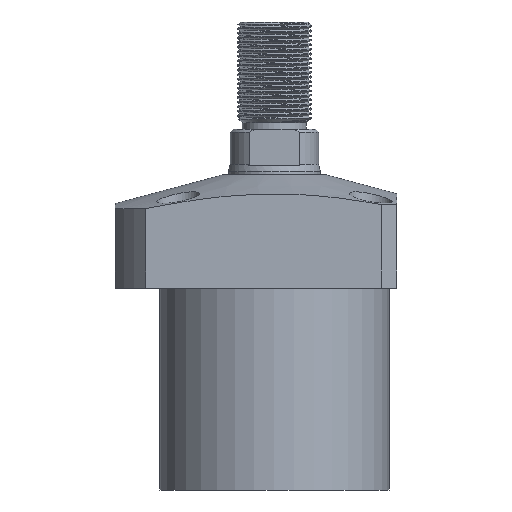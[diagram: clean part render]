
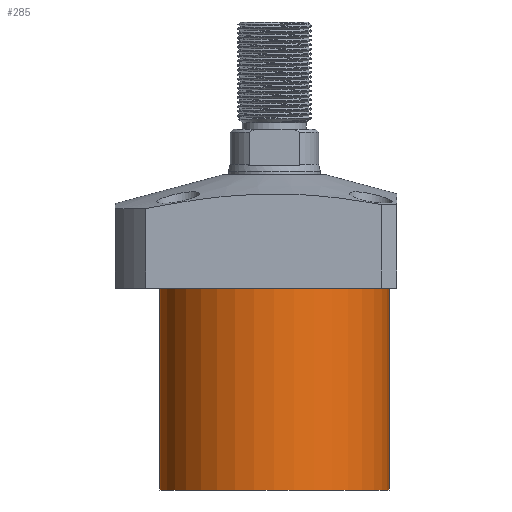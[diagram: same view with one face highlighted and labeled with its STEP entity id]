
A CAD part, front view. The second image highlights one B-rep face of the part: STEP entity #285.
In plain terms, the highlighted cylindrical face has radius 37.5 mm (diameter 75 mm), a partial arc.
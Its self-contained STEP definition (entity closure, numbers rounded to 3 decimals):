
#285 = ADVANCED_FACE ( 'NONE', ( #2215 ), #544, .T. ) ;
#514 = CARTESIAN_POINT ( 'NONE',  ( 0., 0., -84.5 ) ) ;
#544 = CYLINDRICAL_SURFACE ( 'NONE', #604, 37.5 ) ;
#604 = AXIS2_PLACEMENT_3D ( 'NONE', #4468, #3297, #5098 ) ;
#1548 = CIRCLE ( 'NONE', #5932, 37.5 ) ;
#1594 = EDGE_CURVE ( 'NONE', #5304, #1698, #3473, .T. ) ;
#1698 = VERTEX_POINT ( 'NONE', #6000 ) ;
#1828 = CIRCLE ( 'NONE', #3999, 37.5 ) ;
#1903 = EDGE_CURVE ( 'NONE', #3095, #5304, #1548, .T. ) ;
#2001 = ORIENTED_EDGE ( 'NONE', *, *, #4861, .T. ) ;
#2215 = FACE_OUTER_BOUND ( 'NONE', #3313, .T. ) ;
#3015 = CARTESIAN_POINT ( 'NONE',  ( 37.5, 0., -84.5 ) ) ;
#3033 = DIRECTION ( 'NONE',  ( 1., 0., 0. ) ) ;
#3095 = VERTEX_POINT ( 'NONE', #4026 ) ;
#3256 = ORIENTED_EDGE ( 'NONE', *, *, #1594, .F. ) ;
#3297 = DIRECTION ( 'NONE',  ( 0., 0., 1. ) ) ;
#3313 = EDGE_LOOP ( 'NONE', ( #3256, #3635, #2001, #7310 ) ) ;
#3473 = LINE ( 'NONE', #7182, #3571 ) ;
#3482 = VECTOR ( 'NONE', #7989, 1000. ) ;
#3571 = VECTOR ( 'NONE', #4684, 1000. ) ;
#3635 = ORIENTED_EDGE ( 'NONE', *, *, #1903, .F. ) ;
#3999 = AXIS2_PLACEMENT_3D ( 'NONE', #7324, #4871, #3033 ) ;
#4026 = CARTESIAN_POINT ( 'NONE',  ( 37.5, 0., -84.5 ) ) ;
#4294 = DIRECTION ( 'NONE',  ( 0., 0., -1. ) ) ;
#4468 = CARTESIAN_POINT ( 'NONE',  ( 0., 0., -84.5 ) ) ;
#4684 = DIRECTION ( 'NONE',  ( 0., 0., 1. ) ) ;
#4704 = EDGE_CURVE ( 'NONE', #5020, #1698, #1828, .T. ) ;
#4861 = EDGE_CURVE ( 'NONE', #3095, #5020, #5126, .T. ) ;
#4871 = DIRECTION ( 'NONE',  ( 0., 0., -1. ) ) ;
#4877 = DIRECTION ( 'NONE',  ( -1., 0., 0. ) ) ;
#5020 = VERTEX_POINT ( 'NONE', #5221 ) ;
#5098 = DIRECTION ( 'NONE',  ( 1., 0., 0. ) ) ;
#5126 = LINE ( 'NONE', #3015, #3482 ) ;
#5221 = CARTESIAN_POINT ( 'NONE',  ( 37.5, 0., -18.5 ) ) ;
#5304 = VERTEX_POINT ( 'NONE', #7730 ) ;
#5932 = AXIS2_PLACEMENT_3D ( 'NONE', #514, #4294, #4877 ) ;
#6000 = CARTESIAN_POINT ( 'NONE',  ( -37.5, 0., -18.5 ) ) ;
#7182 = CARTESIAN_POINT ( 'NONE',  ( -37.5, 0., -84.5 ) ) ;
#7310 = ORIENTED_EDGE ( 'NONE', *, *, #4704, .T. ) ;
#7324 = CARTESIAN_POINT ( 'NONE',  ( 0., 0., -18.5 ) ) ;
#7730 = CARTESIAN_POINT ( 'NONE',  ( -37.5, 0., -84.5 ) ) ;
#7989 = DIRECTION ( 'NONE',  ( 0., 0., 1. ) ) ;
